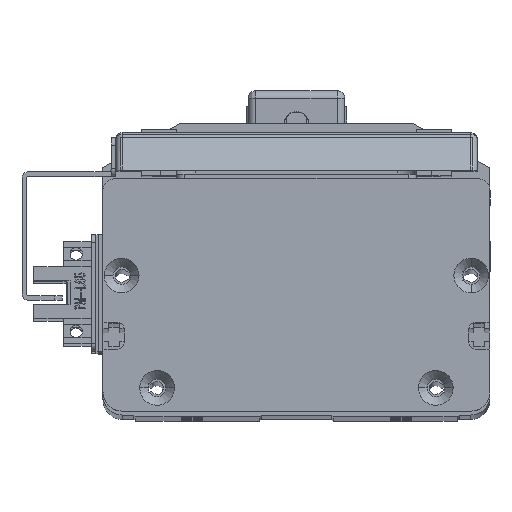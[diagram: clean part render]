
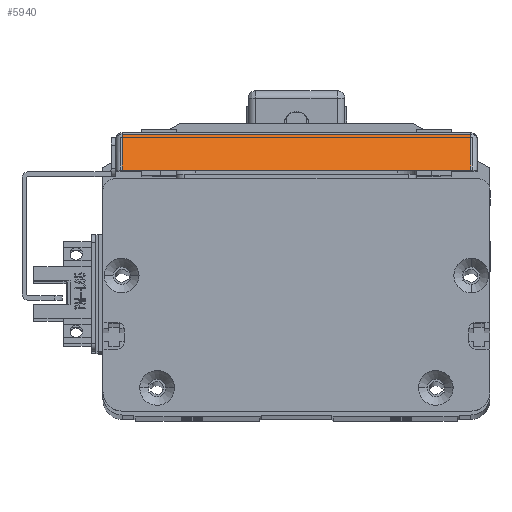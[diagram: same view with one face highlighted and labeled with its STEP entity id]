
A CAD part, top view. The second image highlights one B-rep face of the part: STEP entity #5940.
In plain terms, the highlighted planar face has unit normal (0, 0.707, 0.707) as drawn and (-0.707, 0, -0.707) by its records, which use the part's own axes.
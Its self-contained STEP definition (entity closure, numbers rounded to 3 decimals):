
#2972 = LINE ( 'NONE', #32785, #57356 ) ;
#3521 = DIRECTION ( 'NONE',  ( 0., 1., 0. ) ) ;
#3874 = EDGE_CURVE ( 'NONE', #59302, #25310, #2972, .T. ) ;
#4845 = ORIENTED_EDGE ( 'NONE', *, *, #35262, .T. ) ;
#5940 = ADVANCED_FACE ( 'NONE', ( #29956 ), #62258, .T. ) ;
#7835 = EDGE_CURVE ( 'NONE', #25310, #36665, #51066, .T. ) ;
#10010 = DIRECTION ( 'NONE',  ( -0.707, 0., -0.707 ) ) ;
#15829 = DIRECTION ( 'NONE',  ( 0., -1., 0. ) ) ;
#16152 = VERTEX_POINT ( 'NONE', #43234 ) ;
#16233 = VECTOR ( 'NONE', #29552, 1000. ) ;
#16528 = ORIENTED_EDGE ( 'NONE', *, *, #52722, .T. ) ;
#17337 = VECTOR ( 'NONE', #3521, 1000. ) ;
#21035 = DIRECTION ( 'NONE',  ( -0.707, 0., 0.707 ) ) ;
#25310 = VERTEX_POINT ( 'NONE', #49217 ) ;
#27540 = DIRECTION ( 'NONE',  ( -0.707, 0., 0.707 ) ) ;
#29552 = DIRECTION ( 'NONE',  ( 0.707, 0., -0.707 ) ) ;
#29770 = CARTESIAN_POINT ( 'NONE',  ( -66.5, 91.7, 4.1 ) ) ;
#29956 = FACE_OUTER_BOUND ( 'NONE', #44877, .T. ) ;
#30360 = LINE ( 'NONE', #31917, #50056 ) ;
#30970 = CARTESIAN_POINT ( 'NONE',  ( -68., 93.4, 5.6 ) ) ;
#31917 = CARTESIAN_POINT ( 'NONE',  ( -57.298, 93.4, -5.102 ) ) ;
#32785 = CARTESIAN_POINT ( 'NONE',  ( -68., 1.7, 5.6 ) ) ;
#35262 = EDGE_CURVE ( 'NONE', #36665, #16152, #59094, .T. ) ;
#35773 = CARTESIAN_POINT ( 'NONE',  ( -68., 91.7, 5.6 ) ) ;
#36665 = VERTEX_POINT ( 'NONE', #29770 ) ;
#38672 = AXIS2_PLACEMENT_3D ( 'NONE', #30970, #10010, #21035 ) ;
#43234 = CARTESIAN_POINT ( 'NONE',  ( -57.298, 91.7, -5.102 ) ) ;
#44877 = EDGE_LOOP ( 'NONE', ( #46618, #63145, #4845, #16528 ) ) ;
#46618 = ORIENTED_EDGE ( 'NONE', *, *, #3874, .T. ) ;
#49217 = CARTESIAN_POINT ( 'NONE',  ( -66.5, 1.7, 4.1 ) ) ;
#50056 = VECTOR ( 'NONE', #15829, 1000. ) ;
#50714 = CARTESIAN_POINT ( 'NONE',  ( -66.5, 93.4, 4.1 ) ) ;
#51066 = LINE ( 'NONE', #50714, #17337 ) ;
#52722 = EDGE_CURVE ( 'NONE', #16152, #59302, #30360, .T. ) ;
#57356 = VECTOR ( 'NONE', #27540, 1000. ) ;
#59094 = LINE ( 'NONE', #35773, #16233 ) ;
#59302 = VERTEX_POINT ( 'NONE', #64552 ) ;
#62258 = PLANE ( 'NONE',  #38672 ) ;
#63145 = ORIENTED_EDGE ( 'NONE', *, *, #7835, .T. ) ;
#64552 = CARTESIAN_POINT ( 'NONE',  ( -57.298, 1.7, -5.102 ) ) ;
